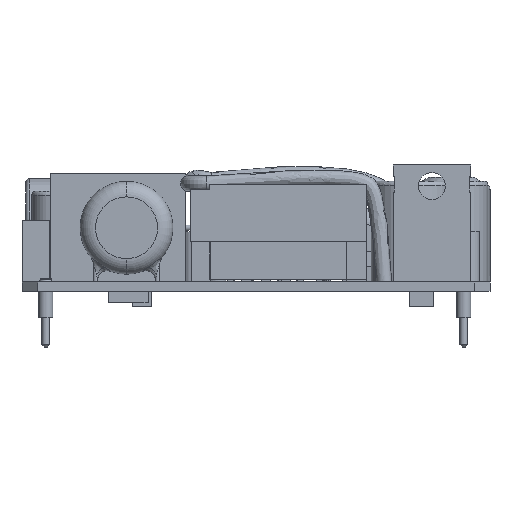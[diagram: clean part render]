
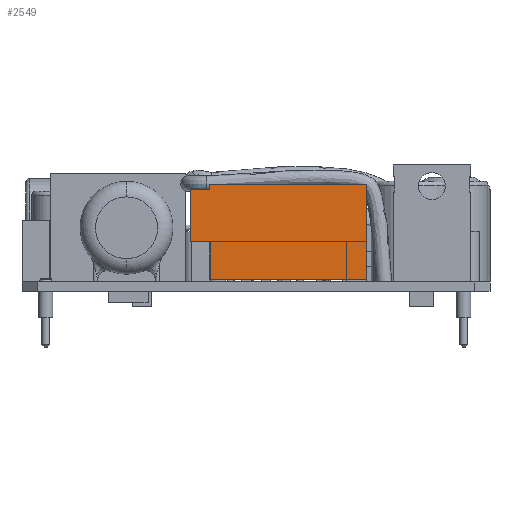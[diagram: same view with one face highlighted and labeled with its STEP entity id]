
A CAD part, front view. The second image highlights one B-rep face of the part: STEP entity #2549.
In plain terms, the highlighted planar face has unit normal (0, -1, 0).
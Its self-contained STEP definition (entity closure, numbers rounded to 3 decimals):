
#1129 = EDGE_CURVE ( 'NONE', #1130, #1131, #10939, .T. ) ;
#1130 = VERTEX_POINT ( 'NONE', #10935 ) ;
#1131 = VERTEX_POINT ( 'NONE', #10934 ) ;
#1462 = VERTEX_POINT ( 'NONE', #12046 ) ;
#1464 = EDGE_CURVE ( 'NONE', #1462, #1130, #12096, .T. ) ;
#2429 = EDGE_CURVE ( 'NONE', #1462, #2452, #15503, .T. ) ;
#2452 = VERTEX_POINT ( 'NONE', #15533 ) ;
#2536 = EDGE_CURVE ( 'NONE', #2560, #2565, #15802, .T. ) ;
#2537 = ORIENTED_EDGE ( 'NONE', *, *, #2538, .T. ) ;
#2538 = EDGE_CURVE ( 'NONE', #2560, #1131, #15793, .T. ) ;
#2549 = ADVANCED_FACE ( 'NONE', ( #15856 ), #15838, .T. ) ;
#2550 = EDGE_LOOP ( 'NONE', ( #2551, #2552, #2553, #2554, #2557, #2559, #2614, #2537 ) ) ;
#2551 = ORIENTED_EDGE ( 'NONE', *, *, #1129, .F. ) ;
#2552 = ORIENTED_EDGE ( 'NONE', *, *, #1464, .F. ) ;
#2553 = ORIENTED_EDGE ( 'NONE', *, *, #2429, .T. ) ;
#2554 = ORIENTED_EDGE ( 'NONE', *, *, #2555, .T. ) ;
#2555 = EDGE_CURVE ( 'NONE', #2452, #2556, #15837, .T. ) ;
#2556 = VERTEX_POINT ( 'NONE', #15829 ) ;
#2557 = ORIENTED_EDGE ( 'NONE', *, *, #2558, .T. ) ;
#2558 = EDGE_CURVE ( 'NONE', #2556, #2568, #15892, .T. ) ;
#2559 = ORIENTED_EDGE ( 'NONE', *, *, #2567, .T. ) ;
#2560 = VERTEX_POINT ( 'NONE', #15888 ) ;
#2565 = VERTEX_POINT ( 'NONE', #15883 ) ;
#2567 = EDGE_CURVE ( 'NONE', #2568, #2565, #15882, .T. ) ;
#2568 = VERTEX_POINT ( 'NONE', #15878 ) ;
#2614 = ORIENTED_EDGE ( 'NONE', *, *, #2536, .F. ) ;
#10934 = CARTESIAN_POINT ( 'NONE',  ( 75.044, 61.368, 13.2 ) ) ;
#10935 = CARTESIAN_POINT ( 'NONE',  ( 72.544, 61.368, 13.2 ) ) ;
#10936 = DIRECTION ( 'NONE',  ( 1., 0., 0. ) ) ;
#10937 = VECTOR ( 'NONE', #10936, 1000. ) ;
#10938 = CARTESIAN_POINT ( 'NONE',  ( 72.544, 61.368, 13.2 ) ) ;
#10939 = LINE ( 'NONE', #10938, #10937 ) ;
#12046 = CARTESIAN_POINT ( 'NONE',  ( 72.544, 61.368, 6.4 ) ) ;
#12093 = DIRECTION ( 'NONE',  ( 0., 0., 1. ) ) ;
#12094 = VECTOR ( 'NONE', #12093, 1000. ) ;
#12095 = CARTESIAN_POINT ( 'NONE',  ( 72.544, 61.368, 6.4 ) ) ;
#12096 = LINE ( 'NONE', #12095, #12094 ) ;
#15500 = DIRECTION ( 'NONE',  ( 1., 0., 0. ) ) ;
#15501 = VECTOR ( 'NONE', #15500, 1000. ) ;
#15502 = CARTESIAN_POINT ( 'NONE',  ( 72.544, 61.368, 6.4 ) ) ;
#15503 = LINE ( 'NONE', #15502, #15501 ) ;
#15533 = CARTESIAN_POINT ( 'NONE',  ( 75.05, 61.368, 6.4 ) ) ;
#15789 = DIRECTION ( 'NONE',  ( 0., 0., -1. ) ) ;
#15790 = VECTOR ( 'NONE', #15789, 1000. ) ;
#15791 = CARTESIAN_POINT ( 'NONE',  ( 75.044, 61.368, 13.8 ) ) ;
#15793 = LINE ( 'NONE', #15791, #15790 ) ;
#15794 = DIRECTION ( 'NONE',  ( 1., 0., 0. ) ) ;
#15795 = VECTOR ( 'NONE', #15794, 1000. ) ;
#15796 = CARTESIAN_POINT ( 'NONE',  ( 75.044, 61.368, 13.8 ) ) ;
#15802 = LINE ( 'NONE', #15796, #15795 ) ;
#15829 = CARTESIAN_POINT ( 'NONE',  ( 75.05, 61.368, 1.5 ) ) ;
#15830 = DIRECTION ( 'NONE',  ( 0., 0., -1. ) ) ;
#15831 = VECTOR ( 'NONE', #15830, 1000. ) ;
#15832 = CARTESIAN_POINT ( 'NONE',  ( 75.05, 61.368, 6.4 ) ) ;
#15833 = DIRECTION ( 'NONE',  ( 0., 0., -1. ) ) ;
#15834 = DIRECTION ( 'NONE',  ( 0., -1., 0. ) ) ;
#15835 = CARTESIAN_POINT ( 'NONE',  ( 72.544, 61.368, 6.4 ) ) ;
#15836 = AXIS2_PLACEMENT_3D ( 'NONE', #15835, #15834, #15833 ) ;
#15837 = LINE ( 'NONE', #15832, #15831 ) ;
#15838 = PLANE ( 'NONE',  #15836 ) ;
#15856 = FACE_OUTER_BOUND ( 'NONE', #2550, .T. ) ;
#15878 = CARTESIAN_POINT ( 'NONE',  ( 95.35, 61.368, 1.5 ) ) ;
#15879 = DIRECTION ( 'NONE',  ( 0., 0., 1. ) ) ;
#15880 = VECTOR ( 'NONE', #15879, 1000. ) ;
#15881 = CARTESIAN_POINT ( 'NONE',  ( 95.35, 61.368, 6.4 ) ) ;
#15882 = LINE ( 'NONE', #15881, #15880 ) ;
#15883 = CARTESIAN_POINT ( 'NONE',  ( 95.35, 61.368, 13.8 ) ) ;
#15888 = CARTESIAN_POINT ( 'NONE',  ( 75.044, 61.368, 13.8 ) ) ;
#15889 = DIRECTION ( 'NONE',  ( 1., 0., 0. ) ) ;
#15890 = VECTOR ( 'NONE', #15889, 1000. ) ;
#15891 = CARTESIAN_POINT ( 'NONE',  ( 95.35, 61.368, 1.5 ) ) ;
#15892 = LINE ( 'NONE', #15891, #15890 ) ;
